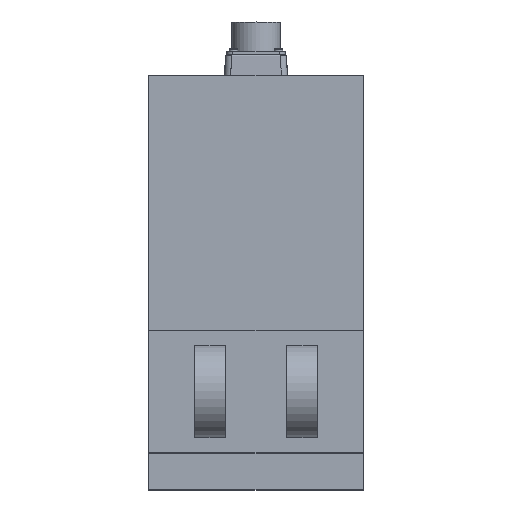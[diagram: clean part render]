
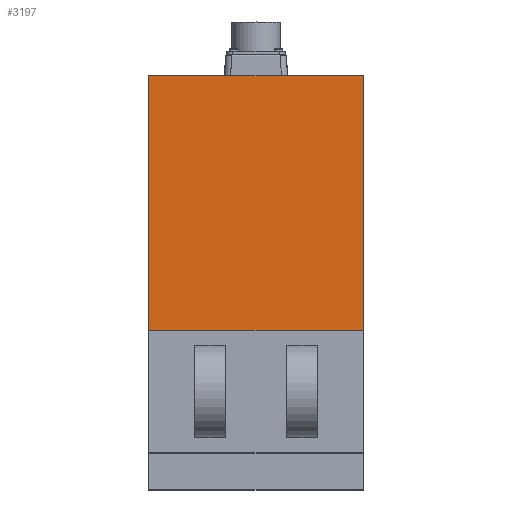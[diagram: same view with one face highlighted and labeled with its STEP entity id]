
A CAD part, top view. The second image highlights one B-rep face of the part: STEP entity #3197.
In plain terms, the highlighted planar face has unit normal (0, 0, 1).
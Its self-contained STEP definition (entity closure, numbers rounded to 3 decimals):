
#1158 = DIRECTION ( 'NONE',  ( 0., -1., 0. ) ) ;
#1583 = EDGE_CURVE ( 'NONE', #5905, #27905, #24956, .T. ) ;
#1706 = CARTESIAN_POINT ( 'NONE',  ( 70., 40., 374. ) ) ;
#1807 = VERTEX_POINT ( 'NONE', #20197 ) ;
#1958 = VECTOR ( 'NONE', #15056, 1000. ) ;
#2434 = VECTOR ( 'NONE', #18985, 1000. ) ;
#3197 = ADVANCED_FACE ( 'NONE', ( #24526 ), #17429, .F. ) ;
#3648 = ORIENTED_EDGE ( 'NONE', *, *, #1583, .F. ) ;
#4608 = DIRECTION ( 'NONE',  ( 0., 0., -1. ) ) ;
#4794 = DIRECTION ( 'NONE',  ( -1., 0., 0. ) ) ;
#5134 = LINE ( 'NONE', #27545, #2434 ) ;
#5382 = EDGE_CURVE ( 'NONE', #8796, #1807, #5134, .T. ) ;
#5905 = VERTEX_POINT ( 'NONE', #1706 ) ;
#6202 = LINE ( 'NONE', #13971, #22820 ) ;
#6230 = AXIS2_PLACEMENT_3D ( 'NONE', #11091, #4608, #4794 ) ;
#8388 = EDGE_LOOP ( 'NONE', ( #3648, #17980, #26862, #20433 ) ) ;
#8616 = EDGE_CURVE ( 'NONE', #5905, #8796, #22616, .T. ) ;
#8796 = VERTEX_POINT ( 'NONE', #26251 ) ;
#10776 = CARTESIAN_POINT ( 'NONE',  ( -70., 40., 374. ) ) ;
#11091 = CARTESIAN_POINT ( 'NONE',  ( 0., 0., 374. ) ) ;
#11903 = EDGE_CURVE ( 'NONE', #1807, #27905, #6202, .T. ) ;
#13971 = CARTESIAN_POINT ( 'NONE',  ( -70., -64., 374. ) ) ;
#15056 = DIRECTION ( 'NONE',  ( 0., 1., 0. ) ) ;
#16510 = VECTOR ( 'NONE', #19113, 1000. ) ;
#17429 = PLANE ( 'NONE',  #6230 ) ;
#17980 = ORIENTED_EDGE ( 'NONE', *, *, #8616, .T. ) ;
#18985 = DIRECTION ( 'NONE',  ( -1., 0., 0. ) ) ;
#19113 = DIRECTION ( 'NONE',  ( -1., 0., 0. ) ) ;
#20197 = CARTESIAN_POINT ( 'NONE',  ( -70., 206., 374. ) ) ;
#20433 = ORIENTED_EDGE ( 'NONE', *, *, #11903, .T. ) ;
#22616 = LINE ( 'NONE', #23737, #1958 ) ;
#22820 = VECTOR ( 'NONE', #1158, 1000. ) ;
#23737 = CARTESIAN_POINT ( 'NONE',  ( 70., -64., 374. ) ) ;
#24526 = FACE_OUTER_BOUND ( 'NONE', #8388, .T. ) ;
#24956 = LINE ( 'NONE', #10776, #16510 ) ;
#25541 = CARTESIAN_POINT ( 'NONE',  ( -70., 40., 374. ) ) ;
#26251 = CARTESIAN_POINT ( 'NONE',  ( 70., 206., 374. ) ) ;
#26862 = ORIENTED_EDGE ( 'NONE', *, *, #5382, .T. ) ;
#27545 = CARTESIAN_POINT ( 'NONE',  ( -70., 206., 374. ) ) ;
#27905 = VERTEX_POINT ( 'NONE', #25541 ) ;
